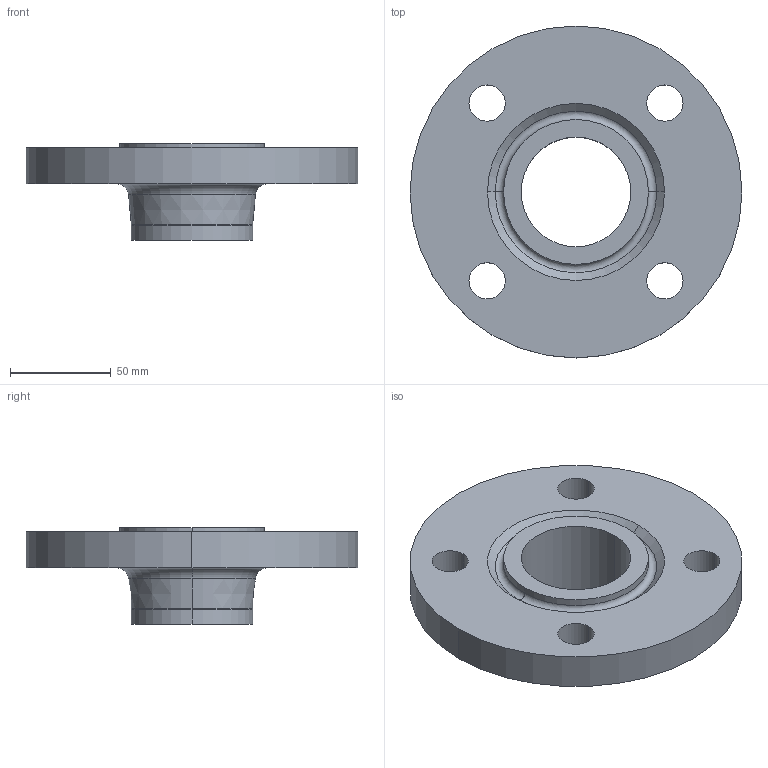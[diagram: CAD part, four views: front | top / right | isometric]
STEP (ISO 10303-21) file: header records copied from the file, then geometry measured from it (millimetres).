
FILE_DESCRIPTION (( 'STEP AP214' ), '1' );
FILE_NAME ('PN40 DN50 Type 11 - Type H Face.STEP', '2018-12-30T04:35:20', ( '' ), ( '' ), 'SwSTEP 2.0', 'SolidWorks 2019', '' );
FILE_SCHEMA (( 'AUTOMOTIVE_DESIGN' ));
Length unit declared in the file: millimetre
Products named in the file (1): PN40 DN50 Type 11 - Type H Face
Bounding box: 165 x 165 x 48 mm (x, y, z)
Volume: 342395.3 mm3; surface area: 63846.9 mm2
Topology: 1 solids, 1 shells, 30 faces, 68 edges, 42 vertices
Faces by surface type: cylinder 16, torus 6, cone 4, plane 4
Entity records: 914 total; most frequent: DIRECTION 178, CARTESIAN_POINT 141, ORIENTED_EDGE 136, AXIS2_PLACEMENT_3D 79, EDGE_CURVE 68, CIRCLE 48, VERTEX_POINT 42, EDGE_LOOP 42
